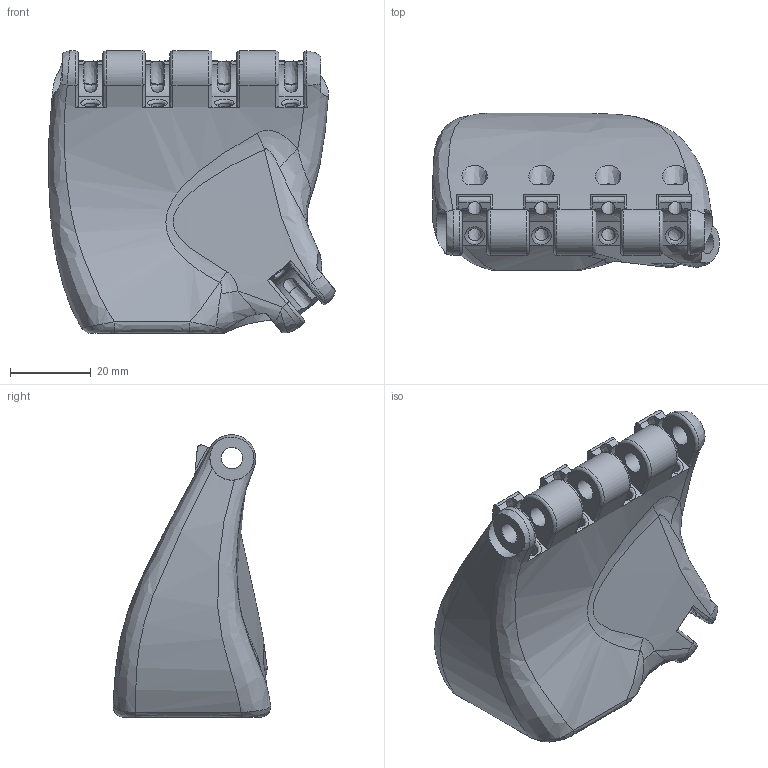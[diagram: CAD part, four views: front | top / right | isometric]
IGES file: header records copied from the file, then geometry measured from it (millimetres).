
Global section: file name: palm; native system: Autodesk Inventor 2015; preprocessor: unknown; author: Jascha; date: 20140624.154805; units: inch
Bounding box: 70.84 x 38.88 x 69.72 mm (x, y, z)
Volume: 82193.2 mm3; surface area: 20229.2 mm2
Topology: 1 solids, 1 shells, 227 faces, 633 edges, 399 vertices
Faces by surface type: bspline 227
